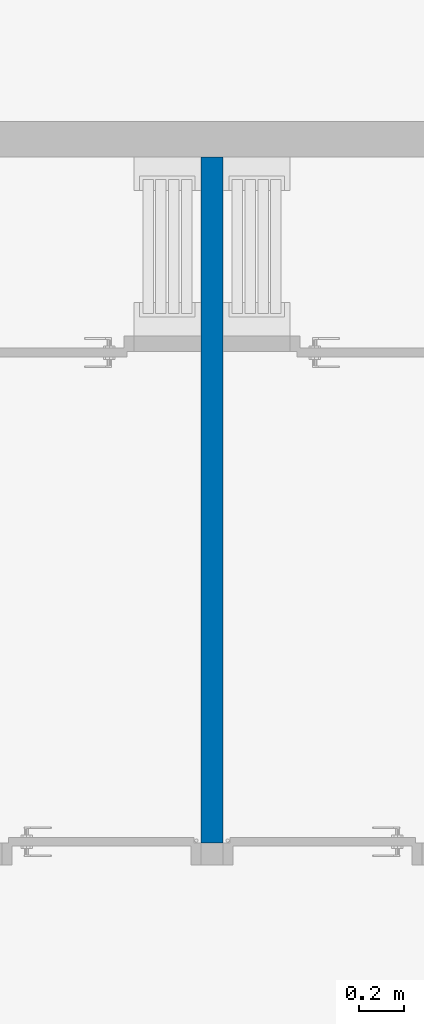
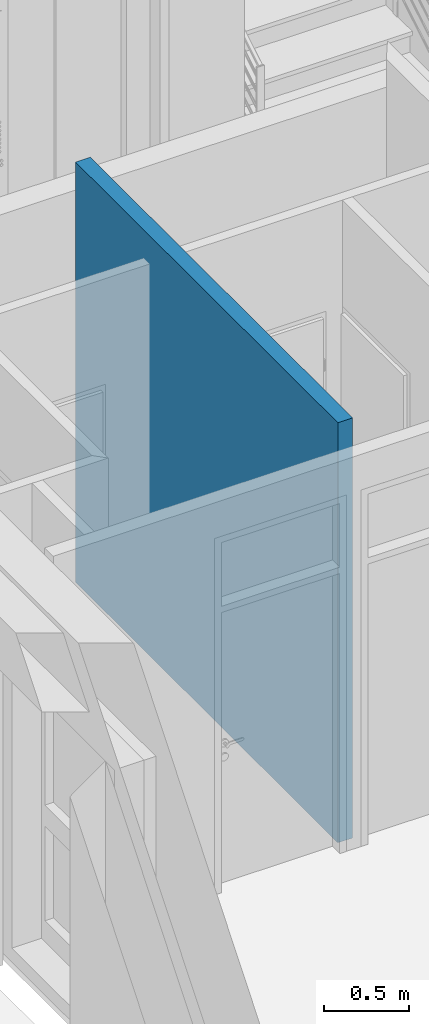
# One storey, part 5 of 45: 1 wall.
"""IFC2X3 building model written with IfcOpenShell, lengths in metres."""

from ifc_helpers import new_model, entity, si_unit, converted_unit, money_unit, direction, frame, origin_with_axes, place, context, subcontext, project, spatial, polyline, outline, extrude, material, layer, layer_set, layer_usage, type_object, element, save


model = new_model("IFC2X3")

# Units and contexts
model_context = context("Model", 3, precision=1e-05, world=origin_with_axes(), true_north=direction((0.0, 1.0)))
body_context = subcontext(model_context, "Body", "Model", "MODEL_VIEW")
ifc_project = project(units=[si_unit("LENGTHUNIT", "METRE"), si_unit("AREAUNIT", "SQUARE_METRE"), si_unit("VOLUMEUNIT", "CUBIC_METRE"), converted_unit("PLANEANGLEUNIT", "DEGREE", entity("IfcPlaneAngleMeasure", 0.0174532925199), si_unit("PLANEANGLEUNIT", "RADIAN"), dimensions=[0, 0, 0, 0, 0, 0, 0]), si_unit("SOLIDANGLEUNIT", "STERADIAN"), money_unit("EUR"), converted_unit("TIMEUNIT", "Year", entity("IfcTimeMeasure", 31556926.0), si_unit("TIMEUNIT", "SECOND"), dimensions=[0, 0, 0, 0, 0, 0, 0]), si_unit("MASSUNIT", "GRAM"), si_unit("THERMODYNAMICTEMPERATUREUNIT", "DEGREE_CELSIUS"), si_unit("LUMINOUSINTENSITYUNIT", "LUMEN")], contexts=[model_context])

# Site, building, storey
site_placement = place(None, origin_with_axes())
site = spatial("IfcSite", under=ifc_project, at=site_placement, Name="Site", CompositionType="ELEMENT")
building_placement = place(site_placement, origin_with_axes())
building = spatial("IfcBuilding", under=site, at=building_placement, Name="Bâtiment", CompositionType="ELEMENT")
storey_placement = place(building_placement, origin_with_axes())
storey = spatial("IfcBuildingStorey", under=building, at=storey_placement, Name="NIVEAU BAS GYMNASE", CompositionType="ELEMENT", Elevation=0.0)

# Wall
ifc_material = material(Name="Hachure solide* 3962059836")
ifc_layer = layer(ifc_material, 0.1, ventilated="UNKNOWN")
ifc_layer_set = layer_set([ifc_layer], Name="Hachure solide* 3962059836 0.1")
ifc_layer_usage = layer_usage(ifc_layer_set, "AXIS2", "POSITIVE", -0.05)
wall_type = type_object("IfcWallType", Name="Hachure solide* 3962059836 100", PredefinedType="NOTDEFINED")
wall_placement = place(storey_placement, frame((47.788457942, 13.108815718, 0.0), z_axis=(0.0, 0.0, 1.0), x_axis=(0.0, -1.0, 0.0)))
element("IfcWallStandardCase", 1, at=wall_placement, inside=storey, type_object=wall_type, material=ifc_layer_usage, Name="Mur-004", context=body_context, shape_type="SweptSolid", body=[
    extrude(outline(polyline([(0.0, -0.05), (3.07000000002, -0.05), (3.07000000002, 0.05), (0.0, 0.05), (0.0, -0.05)])), origin_with_axes(), (0.0, 0.0, 1.0), 3.0),
])

save(model, "model.ifc")
